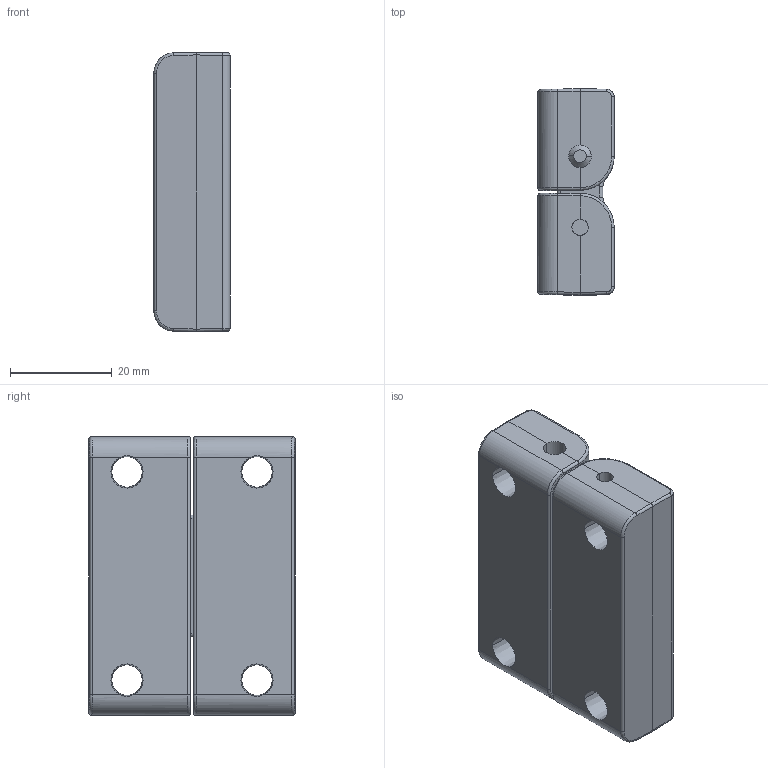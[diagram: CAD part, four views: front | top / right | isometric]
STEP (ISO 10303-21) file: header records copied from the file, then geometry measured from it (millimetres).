
FILE_DESCRIPTION (( 'STEP AP203' ), '1' );
FILE_NAME ('XG11-043.STEP', '2023-12-05T00:07:06', ( '' ), ( '' ), 'SwSTEP 2.0', 'SolidWorks 2020', '' );
FILE_SCHEMA (( 'CONFIG_CONTROL_DESIGN' ));
Length unit declared in the file: millimetre
Products named in the file (6): AH-2E-2016A2-63.sldasm-Part-5^AH-2E-2016A2-63(2); AH-2E-2016A2-63.sldasm-Part-2; AH-2E-2016A2-63.sldasm-Part-3; XG11-043; AH-2E-2016A2-63.sldasm-Part-4; AH-2E-2016A2-63.sldasm-Part-1
Assembly tree (5 placements, depth 2):
  XG11-043
    AH-2E-2016A2-63.sldasm-Part-1
    AH-2E-2016A2-63.sldasm-Part-2
    AH-2E-2016A2-63.sldasm-Part-3
    AH-2E-2016A2-63.sldasm-Part-4
    AH-2E-2016A2-63.sldasm-Part-5^AH-2E-2016A2-63(2)
Bounding box: 15 x 40.6 x 55 mm (x, y, z)
Volume: 27420.7 mm3; surface area: 14469.6 mm2
Topology: 5 solids, 5 shells, 232 faces, 570 edges, 338 vertices
Faces by surface type: cylinder 100, bspline 70, plane 42, cone 20
Entity records: 9370 total; most frequent: CARTESIAN_POINT 3694, ORIENTED_EDGE 1140, DIRECTION 990, EDGE_CURVE 570, AXIS2_PLACEMENT_3D 388, VERTEX_POINT 338, EDGE_LOOP 242, ADVANCED_FACE 232
